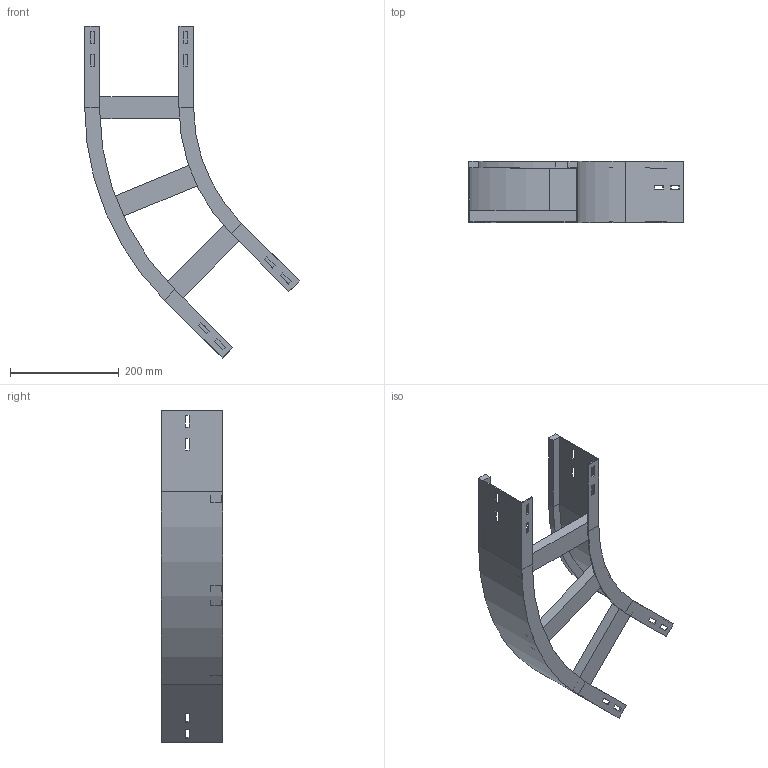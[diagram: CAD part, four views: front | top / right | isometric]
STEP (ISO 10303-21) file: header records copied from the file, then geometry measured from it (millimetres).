
FILE_DESCRIPTION (( 'STEP AP214' ), '1' );
FILE_NAME ('A2_11B3J200.step', '2025-02-21T15:14:11', ( '' ), ( '' ), 'SwSTEP 2.0', 'SolidWorks 2023', '' );
FILE_SCHEMA (( 'AUTOMOTIVE_DESIGN' ));
Length unit declared in the file: millimetre
Products named in the file (4): TRAVERSINO_200; A2_LONGH.ESTERNO 45°_H112.5_R300+200; A2_11B3J200; A2_LONGH.INTERNO 45°_H112.5_R300
Assembly tree (5 placements, depth 2):
  A2_11B3J200
    A2_LONGH.INTERNO 45°_H112.5_R300
    A2_LONGH.ESTERNO 45°_H112.5_R300+200
    TRAVERSINO_200  x3
Bounding box: 393.93 x 112.5 x 609.62 mm (x, y, z)
Volume: 1044976.8 mm3; surface area: 456811.1 mm2
Topology: 5 solids, 5 shells, 134 faces, 340 edges, 216 vertices
Faces by surface type: plane 126, cylinder 8
Entity records: 3821 total; most frequent: CARTESIAN_POINT 646, ORIENTED_EDGE 632, DIRECTION 592, EDGE_CURVE 316, LINE 300, VECTOR 300, VERTEX_POINT 200, EDGE_LOOP 154
